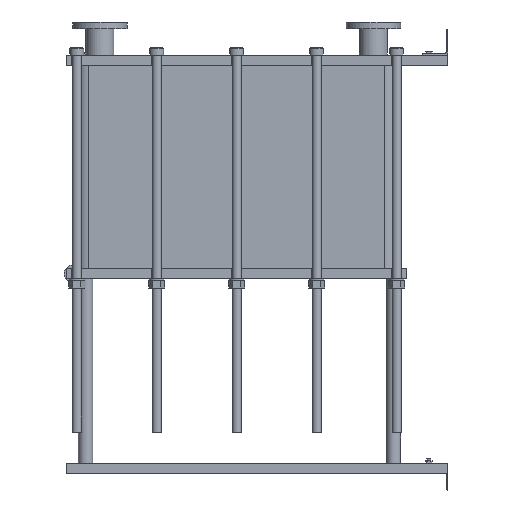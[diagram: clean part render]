
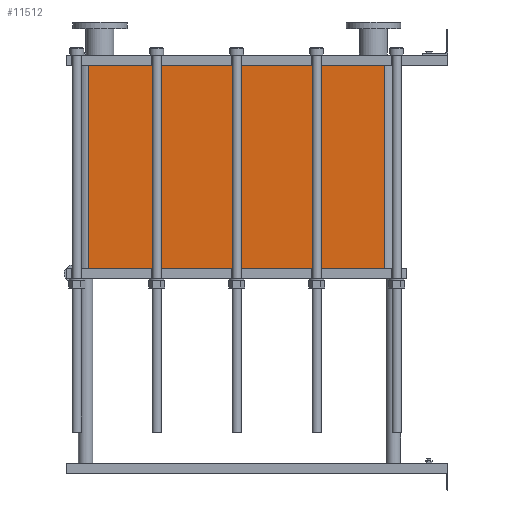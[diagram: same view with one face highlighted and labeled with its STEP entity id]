
A CAD part, left-side view. The second image highlights one B-rep face of the part: STEP entity #11512.
In plain terms, the highlighted planar face has unit normal (-1, 0, 0).
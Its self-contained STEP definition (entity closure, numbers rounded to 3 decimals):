
#1129=LINE('',#23232,#2102);
#1130=LINE('',#23236,#2103);
#1131=LINE('',#23238,#2104);
#1132=LINE('',#23239,#2105);
#2102=VECTOR('',#15887,10.);
#2103=VECTOR('',#15892,10.);
#2104=VECTOR('',#15893,10.);
#2105=VECTOR('',#15894,10.);
#3267=FACE_OUTER_BOUND('',#4093,.T.);
#4093=EDGE_LOOP('',(#10103,#10104,#10105,#10106));
#5642=VERTEX_POINT('',#23229);
#5643=VERTEX_POINT('',#23231);
#5644=VERTEX_POINT('',#23235);
#5645=VERTEX_POINT('',#23237);
#7159=EDGE_CURVE('',#5643,#5642,#1129,.T.);
#7161=EDGE_CURVE('',#5642,#5644,#1130,.T.);
#7162=EDGE_CURVE('',#5645,#5644,#1131,.T.);
#7163=EDGE_CURVE('',#5645,#5643,#1132,.T.);
#10103=ORIENTED_EDGE('',*,*,#7161,.T.);
#10104=ORIENTED_EDGE('',*,*,#7162,.F.);
#10105=ORIENTED_EDGE('',*,*,#7163,.T.);
#10106=ORIENTED_EDGE('',*,*,#7159,.T.);
#10857=PLANE('',#12751);
#11512=ADVANCED_FACE('',(#3267),#10857,.T.);
#12751=AXIS2_PLACEMENT_3D('',#23234,#15890,#15891);
#15887=DIRECTION('',(0.,0.,-1.));
#15890=DIRECTION('center_axis',(-1.,0.,0.));
#15891=DIRECTION('ref_axis',(0.,1.,0.));
#15892=DIRECTION('',(0.,-1.,0.));
#15893=DIRECTION('',(0.,0.,-1.));
#15894=DIRECTION('',(0.,1.,0.));
#23229=CARTESIAN_POINT('',(-200.,1414.,-800.4));
#23231=CARTESIAN_POINT('',(-200.,1414.,0.));
#23232=CARTESIAN_POINT('',(-200.,1414.,0.));
#23234=CARTESIAN_POINT('Origin',(-200.,248.,0.));
#23235=CARTESIAN_POINT('',(-200.,248.,-800.4));
#23236=CARTESIAN_POINT('',(-200.,539.5,-800.4));
#23237=CARTESIAN_POINT('',(-200.,248.,0.));
#23238=CARTESIAN_POINT('',(-200.,248.,0.));
#23239=CARTESIAN_POINT('',(-200.,248.,0.));
